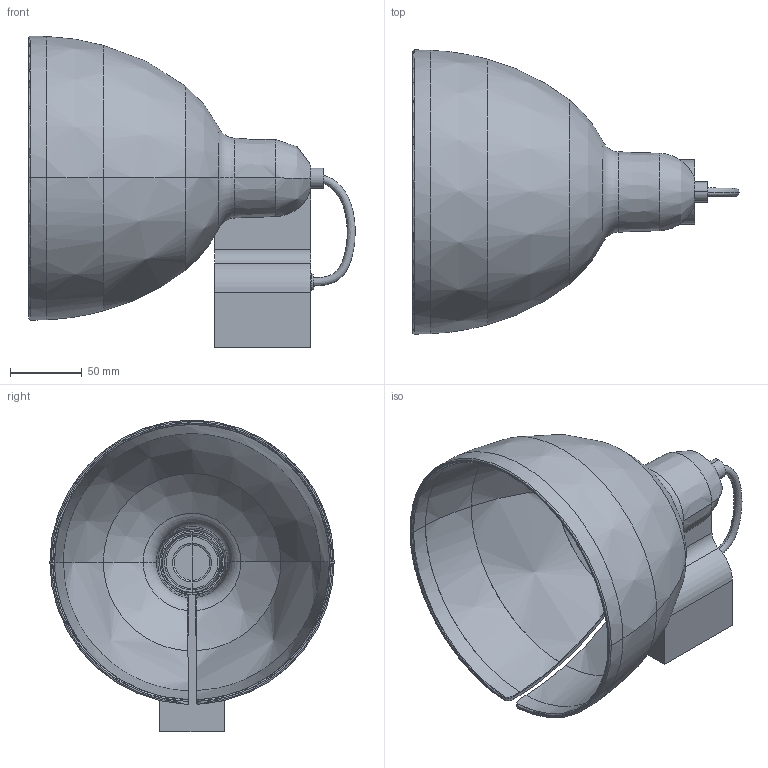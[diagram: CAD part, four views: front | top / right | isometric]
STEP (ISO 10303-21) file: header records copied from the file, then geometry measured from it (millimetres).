
FILE_DESCRIPTION(/* description */ (''),/* implementation_level */ '2;1');
FILE_NAME(/* name */ '64271.step',/* time_stamp */ '2024-05-10T10:03:20+02:00',/* author */ ('RenataManzini'),/* organization */ (''),/* preprocessor_version */ 'ST-DEVELOPER v20',/* originating_system */ 'AutoCAD Mechanical',/* authorisation */ '');
FILE_SCHEMA (('AUTOMOTIVE_DESIGN { 1 0 10303 214 3 1 1 }'));
Length unit declared in the file: millimetre
Products named in the file (2): Product; VENICE_W - 29891 ORA LED Black spotlight-636175-_3D_
Assembly tree (1 placements, depth 2):
  Product
    VENICE_W - 29891 ORA LED Black spotlight-636175-_3D_
Bounding box: 227.47 x 197.96 x 217.28 mm (x, y, z)
Volume: 361653.9 mm3; surface area: 428217.2 mm2
Topology: 8 solids, 8 shells, 274 faces, 636 edges, 380 vertices
Faces by surface type: plane 70, cylinder 66, bspline 54, cone 46, torus 28, sphere 10
Entity records: 12237 total; most frequent: CARTESIAN_POINT 6521, ORIENTED_EDGE 1266, DIRECTION 1035, EDGE_CURVE 633, AXIS2_PLACEMENT_3D 406, VERTEX_POINT 375, EDGE_LOOP 284, FACE_OUTER_BOUND 274
